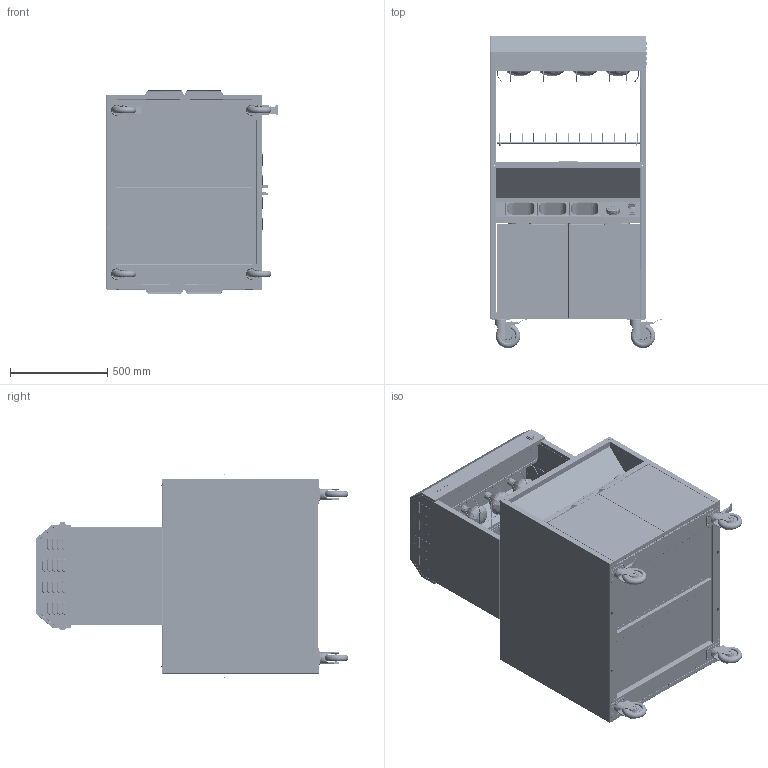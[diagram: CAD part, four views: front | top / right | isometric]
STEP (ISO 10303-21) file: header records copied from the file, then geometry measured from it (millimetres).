
FILE_DESCRIPTION (( 'STEP AP214' ), '1' );
FILE_NAME ('pres-CPDSDCT800.STEP', '2025-04-29T13:35:46', ( '' ), ( '' ), 'SwSTEP 2.0', 'SolidWorks 2025', '' );
FILE_SCHEMA (( 'AUTOMOTIVE_DESIGN' ));
Length unit declared in the file: millimetre
Products named in the file (1): pres-CPDSDCT800
Bounding box: 885.48 x 1602 x 1049.75 mm (x, y, z)
Volume: 14724637.4 mm3; surface area: 21440505.4 mm2
Topology: 120 solids, 120 shells, 11039 faces, 29116 edges, 18266 vertices
Faces by surface type: plane 4964, cylinder 3777, bspline 908, cone 682, torus 658, sphere 50
Entity records: 515485 total; most frequent: CARTESIAN_POINT 117888, ORIENTED_EDGE 58116, DIRECTION 55258, EDGE_CURVE 29058, AXIS2_PLACEMENT_3D 19136, VERTEX_POINT 18262, VECTOR 16986, LINE 16986
